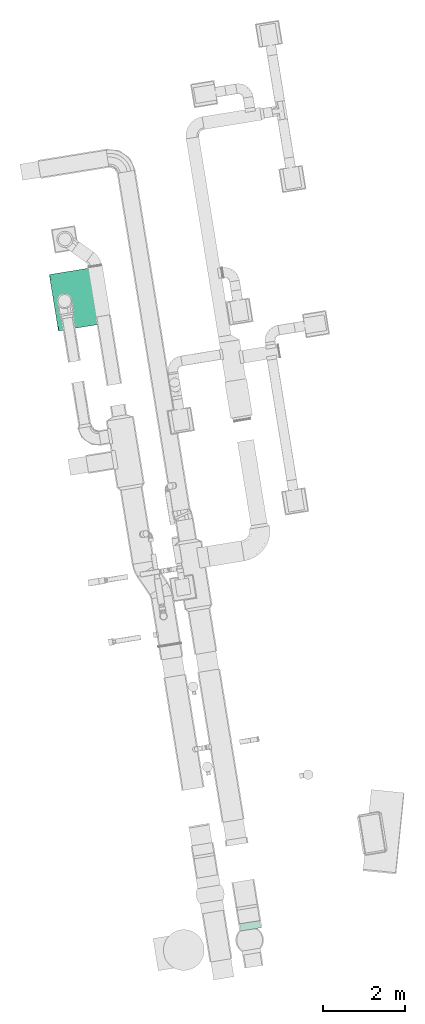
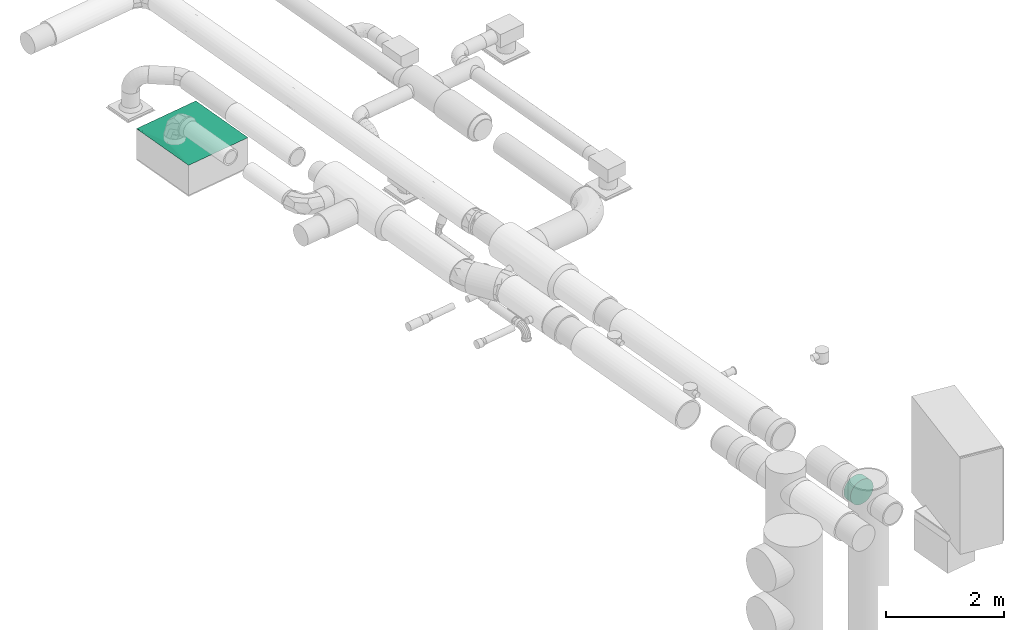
# One storey, part 29 of 39: 2 flow fittings.
"""IFC2X3 building model written with IfcOpenShell, lengths in millimetres."""

from ifc_helpers import new_model, entity, si_unit, converted_unit, derived_unit, direction, frame, origin, origin_with_axes, place, context, subcontext, project, spatial, faceted_brep, source, transform, mapped, material, type_object, element, save


model = new_model("IFC2X3")

# Units and contexts
plan_context = context("Plan", 3, precision=1e-05, world=origin_with_axes())
model_context = context("Model", 3, precision=0.01, world=origin(), true_north=direction((6.12323399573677e-17, 1.0)))
body_context = subcontext(model_context, "Body", "Model", "MODEL_VIEW")
ifc_project = project(units=[converted_unit("PLANEANGLEUNIT", "DEGREE", entity("IfcPositiveLengthMeasure", 0.0174532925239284), si_unit("PLANEANGLEUNIT", "RADIAN"), dimensions=[0, 0, 0, 0, 0, 0, 0]), si_unit("AREAUNIT", "SQUARE_METRE"), si_unit("LENGTHUNIT", "METRE", prefix="MILLI"), si_unit("MASSUNIT", "GRAM", prefix="KILO"), si_unit("POWERUNIT", "WATT"), si_unit("PRESSUREUNIT", "PASCAL", prefix="KILO"), si_unit("FORCEUNIT", "NEWTON", prefix="KILO"), si_unit("ELECTRICVOLTAGEUNIT", "VOLT"), si_unit("ELECTRICCURRENTUNIT", "AMPERE"), si_unit("THERMODYNAMICTEMPERATUREUNIT", "DEGREE_CELSIUS"), si_unit("TIMEUNIT", "SECOND"), si_unit("VOLUMEUNIT", "CUBIC_METRE"), derived_unit("LINEARVELOCITYUNIT", [(si_unit("LENGTHUNIT", "METRE"), 1), (si_unit("TIMEUNIT", "SECOND"), -1)]), derived_unit("VOLUMETRICFLOWRATEUNIT", [(si_unit("VOLUMEUNIT", "CUBIC_METRE"), 1), (si_unit("TIMEUNIT", "SECOND"), -1)]), derived_unit("THERMALTRANSMITTANCEUNIT", [(si_unit("POWERUNIT", "WATT"), 1), (si_unit("THERMODYNAMICTEMPERATUREUNIT", "KELVIN"), -1), (si_unit("AREAUNIT", "SQUARE_METRE"), -1)]), derived_unit("SOUNDPRESSUREUNIT", [(si_unit("PRESSUREUNIT", "PASCAL"), 1)])], contexts=[model_context, plan_context])

# Site, building, storey
site_placement = place(None, frame((-0.00071070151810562, 0.00438415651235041, 0.0), z_axis=(0.0, 0.0, 1.0), x_axis=(-0.160236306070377, 0.987078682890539, 0.0)))
site = spatial("IfcSite", under=ifc_project, at=site_placement, Name="Default", CompositionType="ELEMENT")
building_placement = place(site_placement, origin_with_axes())
building = spatial("IfcBuilding", under=site, at=building_placement, CompositionType="ELEMENT")
storey_placement = place(building_placement, frame((0.0, 0.0, 58999.9999999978), z_axis=(0.0, 0.0, 1.0), x_axis=(1.0, 0.0, 0.0)))
storey = spatial("IfcBuildingStorey", under=building, at=storey_placement, Name="Nivå F", CompositionType="ELEMENT", Elevation=58999.9999999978)

# Flow fittings
ifc_material_1 = material(Name="<Unnamed>")
duct_fitting_type_1 = type_object("IfcDuctFittingType", Name="magicirc_tapoutlet_1:magicirc_tapoutlet_001", PredefinedType="NOTDEFINED", material=ifc_material_1)
shared_shape_1 = source(origin(), body_context, "Body", "Brep", [
    faceted_brep([(-54.7144344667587, 0.0, -250.0), (-54.7144344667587, -55.6302334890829, -243.731978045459), (-54.7144344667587, -108.470934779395, -225.242216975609), (-54.7144344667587, -155.87245046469, -195.457870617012), (-54.7144344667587, -195.457870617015, -155.872450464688), (-54.7144344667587, -225.242216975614, -108.470934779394), (-54.7144344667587, -243.731978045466, -55.6302334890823), (-54.7144344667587, -250.0, 0.0), (-54.7144344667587, -243.731978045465, 55.6302334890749), (-54.7144344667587, -225.242216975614, 108.470934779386), (-54.7144344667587, -195.457870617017, 155.87245046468), (-54.7144344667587, -155.872450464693, 195.457870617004), (-54.7144344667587, -108.470934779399, 225.242216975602), (-54.7144344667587, -55.6302334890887, 243.731978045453), (-54.7144344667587, 0.0, 250.0), (-54.7144344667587, 55.6302334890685, 243.731978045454), (-54.7144344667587, 108.470934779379, 225.242216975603), (-54.7144344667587, 155.872450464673, 195.457870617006), (-54.7144344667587, 195.457870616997, 155.872450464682), (-54.7144344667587, 225.242216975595, 108.470934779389), (-54.7144344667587, 243.731978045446, 55.6302334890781), (-54.7144344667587, 250.0, 0.0), (-54.7144344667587, 243.731978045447, -55.6302334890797), (-54.7144344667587, 225.242216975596, -108.47093477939), (-54.7144344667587, 195.457870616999, -155.872450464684), (-54.7144344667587, 155.872450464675, -195.457870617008), (-54.7144344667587, 108.470934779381, -225.242216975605), (-54.7144344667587, 55.6302334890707, -243.731978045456), (0.0, 0.0, 250.0), (125.0, 0.0, 250.0), (125.0, 55.6302334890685, 243.731978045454), (0.0, 55.6302334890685, 243.731978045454), (125.0, 108.470934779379, 225.242216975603), (0.0, 108.470934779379, 225.242216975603), (0.0, 155.872450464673, 195.457870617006), (125.0, 155.872450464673, 195.457870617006), (125.0, 195.457870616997, 155.872450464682), (0.0, 195.457870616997, 155.872450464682), (125.0, 225.242216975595, 108.470934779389), (0.0, 225.242216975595, 108.470934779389), (0.0, 243.731978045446, 55.6302334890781), (125.0, 243.731978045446, 55.6302334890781), (125.0, 250.0, 0.0), (0.0, 250.0, 0.0), (125.0, 243.731978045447, -55.6302334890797), (0.0, 243.731978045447, -55.6302334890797), (125.0, 225.242216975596, -108.47093477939), (0.0, 225.242216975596, -108.47093477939), (0.0, 195.457870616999, -155.872450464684), (125.0, 195.457870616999, -155.872450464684), (125.0, 155.872450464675, -195.457870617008), (0.0, 155.872450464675, -195.457870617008), (125.0, 108.470934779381, -225.242216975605), (0.0, 108.470934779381, -225.242216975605), (125.0, 55.6302334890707, -243.731978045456), (0.0, 55.6302334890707, -243.731978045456), (0.0, 0.0, -250.0), (125.0, 0.0, -250.0), (125.0, -55.6302334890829, -243.731978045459), (0.0, -55.630233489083, -243.731978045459), (125.0, -108.470934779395, -225.242216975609), (0.0, -108.470934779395, -225.242216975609), (0.0, -155.87245046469, -195.457870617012), (125.0, -155.87245046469, -195.457870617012), (125.0, -195.457870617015, -155.872450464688), (0.0, -195.457870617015, -155.872450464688), (125.0, -225.242216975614, -108.470934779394), (0.0, -225.242216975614, -108.470934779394), (125.0, -243.731978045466, -55.6302334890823), (0.0, -243.731978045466, -55.6302334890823), (125.0, -250.0, 0.0), (0.0, -250.0, 0.0), (125.0, -243.731978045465, 55.6302334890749), (0.0, -243.731978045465, 55.6302334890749), (125.0, -225.242216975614, 108.470934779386), (0.0, -225.242216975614, 108.470934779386), (0.0, -195.457870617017, 155.87245046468), (125.0, -195.457870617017, 155.87245046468), (125.0, -155.872450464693, 195.457870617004), (0.0, -155.872450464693, 195.457870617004), (125.0, -108.470934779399, 225.242216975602), (0.0, -108.470934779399, 225.242216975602), (0.0, -55.6302334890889, 243.731978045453), (125.0, -55.6302334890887, 243.731978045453)], [[[0, 1, 2, 3, 4, 5, 6, 7, 8, 9, 10, 11, 12, 13, 14, 15, 16, 17, 18, 19, 20, 21, 22, 23, 24, 25, 26, 27]], [[14, 28, 29, 30, 31, 15]], [[31, 30, 32, 33, 16, 15]], [[34, 17, 16, 33, 32, 35]], [[34, 35, 36, 37, 18, 17]], [[18, 37, 36, 38, 39, 19]], [[40, 41, 42, 43, 21, 20]], [[20, 19, 39, 38, 41, 40]], [[21, 43, 42, 44, 45, 22]], [[45, 44, 46, 47, 23, 22]], [[48, 24, 23, 47, 46, 49]], [[48, 49, 50, 51, 25, 24]], [[25, 51, 50, 52, 53, 26]], [[53, 52, 54, 55, 27, 26]], [[56, 0, 27, 55, 54, 57]], [[0, 56, 57, 58, 59, 1]], [[59, 58, 60, 61, 2, 1]], [[62, 3, 2, 61, 60, 63]], [[62, 63, 64, 65, 4, 3]], [[65, 64, 66, 67, 5, 4]], [[67, 66, 68, 69, 6, 5]], [[7, 6, 69, 68, 70, 71]], [[7, 71, 70, 72, 73, 8]], [[73, 72, 74, 75, 9, 8]], [[76, 10, 9, 75, 74, 77]], [[76, 77, 78, 79, 11, 10]], [[79, 78, 80, 81, 12, 11]], [[82, 83, 29, 28, 14, 13]], [[81, 80, 83, 82, 13, 12]], [[42, 41, 38, 36, 35, 32, 30, 29, 83, 80, 78, 77, 74, 72, 70, 68, 66, 64, 63, 60, 58, 57, 54, 52, 50, 49, 46, 44]]]),
    faceted_brep([(125.0, 0.0, -250.0), (125.0, 55.6302334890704, -243.731978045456), (125.0, 108.470934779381, -225.242216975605), (125.0, 155.872450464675, -195.457870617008), (125.0, 195.457870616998, -155.872450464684), (125.0, 225.242216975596, -108.47093477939), (125.0, 243.731978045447, -55.6302334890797), (125.0, 250.0, 0.0), (125.0, 243.731978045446, 55.6302334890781), (125.0, 225.242216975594, 108.470934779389), (125.0, 195.457870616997, 155.872450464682), (125.0, 155.872450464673, 195.457870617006), (125.0, 108.470934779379, 225.242216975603), (125.0, 55.6302334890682, 243.731978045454), (125.0, 0.0, 250.0), (125.0, -55.630233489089, 243.731978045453), (125.0, -108.4709347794, 225.242216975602), (125.0, -155.872450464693, 195.457870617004), (125.0, -195.457870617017, 155.87245046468), (125.0, -225.242216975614, 108.470934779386), (125.0, -243.731978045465, 55.6302334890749), (125.0, -250.0, 0.0), (125.0, -243.731978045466, -55.6302334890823), (125.0, -225.242216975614, -108.470934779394), (125.0, -195.457870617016, -155.872450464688), (125.0, -155.872450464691, -195.457870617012), (125.0, -108.470934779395, -225.242216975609), (125.0, -55.6302334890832, -243.731978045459), (0.0, 55.6302334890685, 243.731978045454), (-54.7144344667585, 55.6302334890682, 243.731978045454), (-54.7144344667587, 0.0, 250.0), (0.0, 0.0, 250.0), (0.0, 108.470934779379, 225.242216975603), (-54.7144344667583, 108.470934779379, 225.242216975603), (0.0, 155.872450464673, 195.457870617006), (-54.7144344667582, 155.872450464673, 195.457870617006), (0.0, 195.457870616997, 155.872450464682), (-54.714434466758, 195.457870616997, 155.872450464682), (0.0, 225.242216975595, 108.470934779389), (-54.7144344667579, 225.242216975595, 108.470934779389), (0.0, 243.731978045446, 55.6302334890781), (-54.7144344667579, 243.731978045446, 55.6302334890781), (0.0, 250.0, 0.0), (-54.7144344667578, 250.0, 0.0), (0.0, 243.731978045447, -55.6302334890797), (-54.7144344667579, 243.731978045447, -55.6302334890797), (0.0, 195.457870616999, -155.872450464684), (-54.714434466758, 195.457870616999, -155.872450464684), (-54.7144344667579, 225.242216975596, -108.47093477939), (0.0, 225.242216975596, -108.47093477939), (0.0, 155.872450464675, -195.457870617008), (-54.7144344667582, 155.872450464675, -195.457870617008), (0.0, 108.470934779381, -225.242216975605), (-54.7144344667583, 108.470934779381, -225.242216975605), (0.0, 55.6302334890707, -243.731978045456), (-54.7144344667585, 55.6302334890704, -243.731978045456), (0.0, 0.0, -250.0), (-54.7144344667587, 0.0, -250.0), (0.0, -55.6302334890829, -243.731978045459), (-54.7144344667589, -55.6302334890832, -243.731978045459), (0.0, -108.470934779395, -225.242216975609), (-54.714434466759, -108.470934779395, -225.242216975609), (0.0, -155.87245046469, -195.457870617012), (-54.7144344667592, -155.872450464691, -195.457870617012), (0.0, -195.457870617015, -155.872450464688), (-54.7144344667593, -195.457870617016, -155.872450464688), (0.0, -225.242216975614, -108.470934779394), (-54.7144344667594, -225.242216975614, -108.470934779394), (0.0, -243.731978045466, -55.6302334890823), (-54.7144344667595, -243.731978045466, -55.6302334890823), (0.0, -250.0, 0.0), (-54.7144344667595, -250.0, 0.0), (0.0, -243.731978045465, 55.630233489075), (-54.7144344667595, -243.731978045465, 55.6302334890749), (0.0, -225.242216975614, 108.470934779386), (-54.7144344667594, -225.242216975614, 108.470934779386), (0.0, -195.457870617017, 155.87245046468), (-54.7144344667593, -195.457870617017, 155.87245046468), (0.0, -155.872450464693, 195.457870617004), (-54.7144344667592, -155.872450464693, 195.457870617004), (0.0, -108.4709347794, 225.242216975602), (-54.714434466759, -108.4709347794, 225.242216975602), (0.0, -55.6302334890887, 243.731978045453), (-54.7144344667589, -55.630233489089, 243.731978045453)], [[[0, 1, 2, 3, 4, 5, 6, 7, 8, 9, 10, 11, 12, 13, 14, 15, 16, 17, 18, 19, 20, 21, 22, 23, 24, 25, 26, 27]], [[28, 29, 30, 31, 14, 13]], [[32, 33, 29, 28, 13, 12]], [[34, 35, 33, 32, 12, 11]], [[11, 10, 36, 37, 35, 34]], [[38, 39, 37, 36, 10, 9]], [[40, 41, 39, 38, 9, 8]], [[42, 43, 41, 40, 8, 7]], [[42, 7, 6, 44, 45, 43]], [[5, 4, 46, 47, 48, 49]], [[44, 6, 5, 49, 48, 45]], [[4, 3, 50, 51, 47, 46]], [[52, 53, 51, 50, 3, 2]], [[54, 55, 53, 52, 2, 1]], [[56, 57, 55, 54, 1, 0]], [[0, 27, 58, 59, 57, 56]], [[27, 26, 60, 61, 59, 58]], [[62, 63, 61, 60, 26, 25]], [[25, 24, 64, 65, 63, 62]], [[66, 67, 65, 64, 24, 23]], [[68, 69, 67, 66, 23, 22]], [[70, 71, 69, 68, 22, 21]], [[72, 73, 71, 70, 21, 20]], [[74, 75, 73, 72, 20, 19]], [[76, 77, 75, 74, 19, 18]], [[18, 17, 78, 79, 77, 76]], [[80, 81, 79, 78, 17, 16]], [[82, 83, 81, 80, 16, 15]], [[31, 30, 83, 82, 15, 14]], [[57, 59, 61, 63, 65, 67, 69, 71, 73, 75, 77, 79, 81, 83, 30, 29, 33, 35, 37, 39, 41, 43, 45, 48, 47, 51, 53, 55]]]),
    faceted_brep([(-54.7144344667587, 0.0, -250.0), (-54.7144344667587, -55.6302334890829, -243.731978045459), (-54.7144344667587, -108.470934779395, -225.242216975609), (-54.7144344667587, -155.87245046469, -195.457870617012), (-54.7144344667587, -195.457870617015, -155.872450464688), (-54.7144344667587, -225.242216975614, -108.470934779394), (-54.7144344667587, -243.731978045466, -55.6302334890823), (-54.7144344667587, -250.0, 0.0), (-54.7144344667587, -243.731978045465, 55.6302334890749), (-54.7144344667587, -225.242216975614, 108.470934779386), (-54.7144344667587, -195.457870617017, 155.87245046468), (-54.7144344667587, -155.872450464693, 195.457870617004), (-54.7144344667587, -108.470934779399, 225.242216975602), (-54.7144344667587, -55.6302334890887, 243.731978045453), (-54.7144344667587, 0.0, 250.0), (-54.7144344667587, 55.6302334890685, 243.731978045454), (-54.7144344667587, 108.470934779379, 225.242216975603), (-54.7144344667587, 155.872450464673, 195.457870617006), (-54.7144344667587, 195.457870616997, 155.872450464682), (-54.7144344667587, 225.242216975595, 108.470934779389), (-54.7144344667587, 243.731978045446, 55.6302334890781), (-54.7144344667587, 250.0, 0.0), (-54.7144344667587, 243.731978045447, -55.6302334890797), (-54.7144344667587, 225.242216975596, -108.47093477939), (-54.7144344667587, 195.457870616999, -155.872450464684), (-54.7144344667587, 155.872450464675, -195.457870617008), (-54.7144344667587, 108.470934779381, -225.242216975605), (-54.7144344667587, 55.6302334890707, -243.731978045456), (0.0, 0.0, 250.0), (125.0, 0.0, 250.0), (125.0, 55.6302334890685, 243.731978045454), (0.0, 55.6302334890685, 243.731978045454), (125.0, 108.470934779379, 225.242216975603), (0.0, 108.470934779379, 225.242216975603), (0.0, 155.872450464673, 195.457870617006), (125.0, 155.872450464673, 195.457870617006), (125.0, 195.457870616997, 155.872450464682), (0.0, 195.457870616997, 155.872450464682), (125.0, 225.242216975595, 108.470934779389), (0.0, 225.242216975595, 108.470934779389), (0.0, 243.731978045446, 55.6302334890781), (125.0, 243.731978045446, 55.6302334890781), (125.0, 250.0, 0.0), (0.0, 250.0, 0.0), (125.0, 243.731978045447, -55.6302334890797), (0.0, 243.731978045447, -55.6302334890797), (125.0, 225.242216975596, -108.47093477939), (0.0, 225.242216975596, -108.47093477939), (0.0, 195.457870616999, -155.872450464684), (125.0, 195.457870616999, -155.872450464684), (125.0, 155.872450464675, -195.457870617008), (0.0, 155.872450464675, -195.457870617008), (125.0, 108.470934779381, -225.242216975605), (0.0, 108.470934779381, -225.242216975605), (125.0, 55.6302334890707, -243.731978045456), (0.0, 55.6302334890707, -243.731978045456), (0.0, 0.0, -250.0), (125.0, 0.0, -250.0), (125.0, -55.6302334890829, -243.731978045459), (0.0, -55.630233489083, -243.731978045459), (125.0, -108.470934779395, -225.242216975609), (0.0, -108.470934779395, -225.242216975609), (0.0, -155.87245046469, -195.457870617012), (125.0, -155.87245046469, -195.457870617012), (125.0, -195.457870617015, -155.872450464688), (0.0, -195.457870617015, -155.872450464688), (125.0, -225.242216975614, -108.470934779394), (0.0, -225.242216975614, -108.470934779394), (125.0, -243.731978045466, -55.6302334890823), (0.0, -243.731978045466, -55.6302334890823), (125.0, -250.0, 0.0), (0.0, -250.0, 0.0), (125.0, -243.731978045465, 55.6302334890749), (0.0, -243.731978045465, 55.6302334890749), (125.0, -225.242216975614, 108.470934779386), (0.0, -225.242216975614, 108.470934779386), (0.0, -195.457870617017, 155.87245046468), (125.0, -195.457870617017, 155.87245046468), (125.0, -155.872450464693, 195.457870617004), (0.0, -155.872450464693, 195.457870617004), (125.0, -108.470934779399, 225.242216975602), (0.0, -108.470934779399, 225.242216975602), (0.0, -55.6302334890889, 243.731978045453), (125.0, -55.6302334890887, 243.731978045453)], [[[0, 1, 2, 3, 4, 5, 6, 7, 8, 9, 10, 11, 12, 13, 14, 15, 16, 17, 18, 19, 20, 21, 22, 23, 24, 25, 26, 27]], [[14, 28, 29, 30, 31, 15]], [[31, 30, 32, 33, 16, 15]], [[34, 17, 16, 33, 32, 35]], [[34, 35, 36, 37, 18, 17]], [[18, 37, 36, 38, 39, 19]], [[40, 41, 42, 43, 21, 20]], [[20, 19, 39, 38, 41, 40]], [[21, 43, 42, 44, 45, 22]], [[45, 44, 46, 47, 23, 22]], [[48, 24, 23, 47, 46, 49]], [[48, 49, 50, 51, 25, 24]], [[25, 51, 50, 52, 53, 26]], [[53, 52, 54, 55, 27, 26]], [[56, 0, 27, 55, 54, 57]], [[0, 56, 57, 58, 59, 1]], [[59, 58, 60, 61, 2, 1]], [[62, 3, 2, 61, 60, 63]], [[62, 63, 64, 65, 4, 3]], [[65, 64, 66, 67, 5, 4]], [[67, 66, 68, 69, 6, 5]], [[7, 6, 69, 68, 70, 71]], [[7, 71, 70, 72, 73, 8]], [[73, 72, 74, 75, 9, 8]], [[76, 10, 9, 75, 74, 77]], [[76, 77, 78, 79, 11, 10]], [[79, 78, 80, 81, 12, 11]], [[82, 83, 29, 28, 14, 13]], [[81, 80, 83, 82, 13, 12]], [[42, 41, 38, 36, 35, 32, 30, 29, 83, 80, 78, 77, 74, 72, 70, 68, 66, 64, 63, 60, 58, 57, 54, 52, 50, 49, 46, 44]]]),
])
flow_fitting_1_placement = place(storey_placement, frame((764177.984629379, -503340.008615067, 3129.99954147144), z_axis=(0.0, -1.0, 0.0), x_axis=(1.0, 0.0, 0.0)))
element("IfcFlowFitting", 1, at=flow_fitting_1_placement, inside=storey, type_object=duct_fitting_type_1, material=ifc_material_1, Name="magicirc_tapoutlet_1:magicirc_tapoutlet_001", ObjectType="magicirc_tapoutlet_1:magicirc_tapoutlet_001", context=body_context, shape_type="MappedRepresentation", body=[
    mapped(shared_shape_1, transform((0.0, 0.0, 0.0), scale=1.0)),
])
ifc_material_2 = material(Name="Material_Duct")
duct_fitting_type_2 = type_object("IfcDuctFittingType", Name="magicirc_multi_shape_trans_001:magicirc_multi_shape_trans_001", PredefinedType="NOTDEFINED", material=ifc_material_2)
shared_shape_2 = source(origin(), body_context, "Body", "Brep", [
    faceted_brep([(50.0, 382.770880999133, -157.499999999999), (50.0, 401.63489126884, -155.016505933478), (50.0, 423.53488060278, -152.133317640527), (50.0, 442.527880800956, -144.266159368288), (50.0, 461.520880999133, -136.399001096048), (50.0, 477.830540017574, -123.884159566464), (50.0, 494.140199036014, -111.36931803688), (50.0, 506.655040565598, -95.0596590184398), (50.0, 519.169882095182, -78.7499999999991), (50.0, 523.103461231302, -69.2534999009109), (50.0, 527.037040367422, -59.7569998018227), (50.0, 534.904198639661, -40.7639996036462), (50.0, 537.787386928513, -18.8640103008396), (50.0, 540.270880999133, 0.0), (50.0, 537.787386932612, 18.8640102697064), (50.0, 534.904198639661, 40.7639996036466), (50.0, 527.037040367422, 59.7569998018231), (50.0, 519.169882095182, 78.7499999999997), (50.0, 506.655040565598, 95.0596590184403), (50.0, 494.140199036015, 111.369318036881), (50.0, 477.830540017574, 123.884159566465), (50.0, 461.520880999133, 136.399001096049), (50.0, 452.024380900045, 140.332580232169), (50.0, 442.527880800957, 144.266159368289), (50.0, 423.534880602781, 152.133317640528), (50.0, 401.634891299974, 155.01650592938), (50.0, 382.770880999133, 157.5), (50.0, 365.873864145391, 155.275465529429), (50.0, 342.006881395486, 152.133317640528), (50.0, 323.01388119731, 144.266159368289), (50.0, 304.020880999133, 136.399001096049), (50.0, 287.711221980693, 123.884159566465), (50.0, 271.401562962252, 111.369318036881), (50.0, 258.886721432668, 95.0596590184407), (50.0, 246.371879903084, 78.7500000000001), (50.0, 238.504721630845, 59.7569998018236), (50.0, 230.637563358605, 40.7639996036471), (50.0, 227.49541550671, 16.8970171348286), (50.0, 225.270880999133, 0.0), (50.0, 227.495415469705, -16.8970168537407), (50.0, 230.637563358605, -40.7639996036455), (50.0, 238.504721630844, -59.756999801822), (50.0, 246.371879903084, -78.7499999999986), (50.0, 258.886721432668, -95.0596590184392), (50.0, 271.401562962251, -111.36931803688), (50.0, 287.711221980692, -123.884159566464), (50.0, 304.020880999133, -136.399001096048), (50.0, 323.013881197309, -144.266159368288), (50.0, 342.006881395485, -152.133317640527), (50.0, 365.873863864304, -155.275465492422), (0.0, -650.0, 700.0), (0.0, 650.0, 700.0), (0.0, 650.0, -700.0), (0.0, -650.0, -700.0), (18.2250564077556, -300.100152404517, 495.75185010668), (12.907072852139, -383.399019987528, 559.958259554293), (6.45353642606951, -516.699509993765, 629.979129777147), (40.0605070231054, 95.814831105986, 235.366577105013), (43.9535360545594, 119.425004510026, 84.6504952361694), (31.860608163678, -92.2667484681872, 253.951485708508), (37.9070721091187, 13.5791280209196, 169.300990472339), (37.9774332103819, 105.218814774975, 284.321170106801), (37.4030307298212, 11.8155467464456, 216.528957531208), (6.45353605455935, -537.028156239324, 609.65049523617), (13.1114981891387, -408.01574282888, 546.004046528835), (32.2780884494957, -36.2141389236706, 334.918380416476), (27.715698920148, -133.462714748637, 379.00673409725), (43.9535364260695, 257.878650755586, 223.104129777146), (37.907072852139, 132.986420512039, 288.708259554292), (31.8606092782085, 8.09419026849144, 354.312389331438), (25.8141457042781, -116.798039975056, 419.916519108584), (32.4617114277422, -17.2182397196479, 340.575636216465), (12.9070721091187, -424.056312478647, 519.300990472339), (24.6189691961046, -214.242785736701, 382.172010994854), (20.0554717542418, -289.515460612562, 452.387786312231), (19.360608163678, -311.084468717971, 428.951485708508), (25.8141442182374, -198.112624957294, 338.601980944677), (35.0342044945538, -25.8024692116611, 257.362634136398), (33.3197391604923, -50.1634110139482, 290.110410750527), (38.383726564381, 52.6476338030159, 243.161801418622), (19.3606092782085, -250.098529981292, 489.937389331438), (6.4535364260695, -537.028149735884, -609.650490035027), (12.907072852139, -424.056299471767, -519.300980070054), (19.3606092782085, -311.08444920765, -428.95147010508), (25.814145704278, -198.112598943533, -338.601960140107), (31.8606092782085, -92.2667289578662, -253.95147010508), (37.907072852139, 13.5791410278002, -169.300980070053), (43.9535364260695, 119.425011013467, -84.6504900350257), (18.2250564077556, -324.456488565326, -471.395513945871), (40.0605070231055, 81.2528272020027, -220.804573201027), (43.9535360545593, 257.878643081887, -223.10413380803), (31.860608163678, 8.09416724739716, -354.312401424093), (37.9070721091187, 132.986405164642, -288.708267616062), (37.9774332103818, 18.4345080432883, -197.536863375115), (37.4030307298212, 82.4038322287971, -287.117243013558), (6.45353605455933, -516.699517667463, -629.979133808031), (13.1114981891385, -408.741550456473, -545.278238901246), (32.2780884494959, -70.0942218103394, -301.0382975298), (27.7156989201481, -144.54718315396, -367.922265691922), (32.4617114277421, -74.5293900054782, -283.264485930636), (12.9070721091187, -383.399035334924, -559.958267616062), (24.6189691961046, -168.322489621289, -428.092307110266), (20.0554717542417, -268.910246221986, -472.993000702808), (19.360608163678, -250.098553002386, -489.937401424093), (25.8141442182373, -116.798070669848, -419.916535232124), (35.0342044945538, 25.804627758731, -308.969731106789), (33.3197391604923, -18.3536316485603, -321.920190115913), (38.3837265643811, 62.2979286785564, -252.81209629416), (10.2601239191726, 595.163922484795, -588.677655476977), (20.5202478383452, 540.327844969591, -477.355310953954), (24.2052168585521, 520.633224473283, -437.37339708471), (27.8901858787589, 500.938603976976, -397.391483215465), (35.2601239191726, 461.549362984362, -317.427655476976), (42.6300619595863, 422.160121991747, -237.463827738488), (31.7618736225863, 526.118510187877, -344.247774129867), (25.0, 566.125762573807, -411.05295127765), (42.6300616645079, 556.444817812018, -103.179136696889), (27.8901849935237, 588.792691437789, -309.537410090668), (35.2601233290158, 572.618754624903, -206.358273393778), (31.7618739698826, 569.160054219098, -301.206224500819), (29.6238669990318, 564.528689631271, -343.573174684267), (20.5202466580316, 604.966628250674, -412.716546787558), (10.2601233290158, 627.483314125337, -556.358273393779), (10.2601239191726, 627.483312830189, 556.358265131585), (20.5202478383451, 604.966625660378, 412.716530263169), (24.205216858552, 596.879657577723, 361.126963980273), (27.8901858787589, 588.792689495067, 309.537397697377), (35.2601239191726, 572.618753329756, 206.358265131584), (42.6300619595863, 556.444817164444, 103.179132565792), (31.7618736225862, 569.160054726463, 301.206229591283), (25.0, 577.438391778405, 399.740322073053), (42.6300616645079, 422.160123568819, 237.46383094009), (27.8901849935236, 500.93860870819, 397.39149282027), (35.2601233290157, 461.549366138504, 317.42766188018), (31.7618739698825, 526.11850810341, 344.247770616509), (29.623866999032, 549.98011507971, 358.121749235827), (20.5202466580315, 540.327851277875, 477.355323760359), (10.2601233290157, 595.163925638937, 588.67766188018)], [[[0, 1, 2, 3, 4, 5, 6, 7, 8, 9, 10, 11, 12, 13, 14, 15, 16, 17, 18, 19, 20, 21, 22, 23, 24, 25, 26, 27, 28, 29, 30, 31, 32, 33, 34, 35, 36, 37, 38, 39, 40, 41, 42, 43, 44, 45, 46, 47, 48, 49]], [[50, 51, 52, 53]], [[54, 55, 56]], [[57, 32, 31]], [[58, 38, 37, 36, 59, 60]], [[61, 30, 29, 28]], [[62, 59, 35]], [[59, 36, 35]], [[63, 64, 50]], [[65, 66, 57]], [[27, 26, 67, 68, 69, 28]], [[70, 61, 69]], [[61, 71, 30]], [[72, 73, 74]], [[59, 62, 75, 76]], [[62, 35, 34]], [[73, 77, 78]], [[78, 33, 79]], [[32, 57, 79]], [[75, 73, 72]], [[55, 54, 65]], [[61, 70, 71]], [[69, 61, 28]], [[71, 70, 80, 55]], [[56, 50, 64]], [[77, 75, 62]], [[71, 65, 30]], [[74, 73, 78]], [[79, 74, 78]], [[64, 66, 54]], [[75, 77, 73]], [[34, 77, 62]], [[31, 30, 65]], [[63, 72, 74]], [[66, 74, 79]], [[31, 65, 57]], [[55, 65, 71]], [[66, 79, 57]], [[34, 33, 77]], [[78, 77, 33]], [[33, 32, 79]], [[63, 74, 64]], [[66, 64, 74]], [[64, 54, 56]], [[65, 54, 66]], [[50, 53, 81, 82, 83, 84, 85, 86, 87, 38, 58, 60, 59, 76, 75, 72, 63]], [[88, 82, 81]], [[89, 44, 43]], [[90, 0, 49, 48, 91, 92]], [[93, 42, 41, 40]], [[94, 91, 47]], [[91, 48, 47]], [[95, 96, 53]], [[97, 98, 89]], [[39, 38, 87, 86, 85, 40]], [[84, 93, 85]], [[93, 99, 42]], [[100, 101, 102]], [[91, 94, 103, 104]], [[94, 47, 46]], [[101, 105, 106]], [[106, 45, 107]], [[44, 89, 107]], [[103, 101, 100]], [[82, 88, 97]], [[93, 84, 99]], [[85, 93, 40]], [[99, 84, 83, 82]], [[81, 53, 96]], [[105, 103, 94]], [[99, 97, 42]], [[102, 101, 106]], [[107, 102, 106]], [[96, 98, 88]], [[103, 105, 101]], [[46, 105, 94]], [[43, 42, 97]], [[95, 100, 102]], [[98, 102, 107]], [[43, 97, 89]], [[82, 97, 99]], [[98, 107, 89]], [[46, 45, 105]], [[106, 105, 45]], [[45, 44, 107]], [[95, 102, 96]], [[98, 96, 102]], [[96, 88, 81]], [[97, 88, 98]], [[90, 92, 91, 104, 103, 100, 95, 53, 52, 108, 109, 110, 111, 112, 113, 0]], [[109, 3, 111, 110]], [[114, 115, 5]], [[116, 13, 12, 11, 117, 118]], [[111, 2, 1, 0, 113, 112]], [[52, 115, 108]], [[119, 8, 7]], [[6, 115, 120]], [[121, 10, 9, 8]], [[117, 11, 10]], [[109, 4, 3]], [[2, 111, 3]], [[10, 121, 117]], [[109, 108, 114]], [[7, 6, 120]], [[121, 8, 119]], [[5, 4, 114]], [[115, 6, 5]], [[120, 52, 122]], [[52, 120, 115]], [[119, 120, 122]], [[109, 114, 4]], [[115, 114, 108]], [[120, 119, 7]], [[121, 119, 122]], [[52, 51, 123, 124, 125, 126, 127, 128, 13, 116, 118, 117, 121, 122]], [[124, 16, 126, 125]], [[129, 130, 18]], [[131, 26, 25, 24, 132, 133]], [[126, 15, 14, 13, 128, 127]], [[51, 130, 123]], [[134, 21, 20]], [[19, 130, 135]], [[136, 23, 22, 21]], [[132, 24, 23]], [[124, 17, 16]], [[15, 126, 16]], [[23, 136, 132]], [[124, 123, 129]], [[20, 19, 135]], [[136, 21, 134]], [[18, 17, 129]], [[130, 19, 18]], [[135, 51, 137]], [[51, 135, 130]], [[134, 135, 137]], [[124, 129, 17]], [[130, 129, 123]], [[135, 134, 20]], [[136, 134, 137]], [[51, 50, 56, 55, 80, 70, 69, 68, 67, 26, 131, 133, 132, 136, 137]]]),
])
flow_fitting_2_placement = place(storey_placement, frame((780044.619644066, -501687.480498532, 2645.0), z_axis=(-1.0, 0.0, 0.0), x_axis=(0.0, 0.0, 1.0)))
element("IfcFlowFitting", 2, at=flow_fitting_2_placement, inside=storey, type_object=duct_fitting_type_2, material=ifc_material_2, Name="magicirc_multi_shape_trans_001:magicirc_multi_shape_trans_001", ObjectType="magicirc_multi_shape_trans_001:magicirc_multi_shape_trans_001", context=body_context, shape_type="MappedRepresentation", body=[
    mapped(shared_shape_2, transform((0.0, 0.0, 0.0), scale=1.0)),
])

save(model, "model.ifc")
